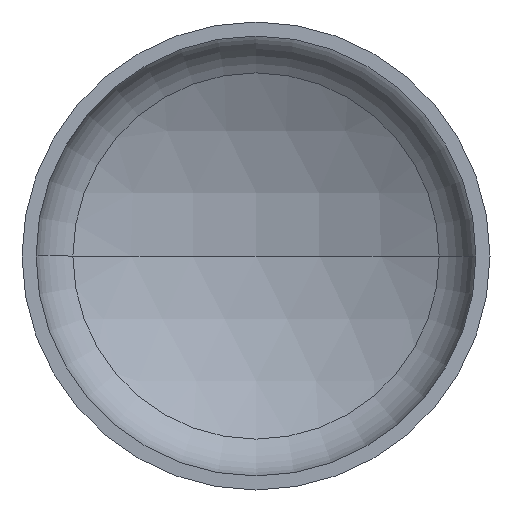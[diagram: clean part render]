
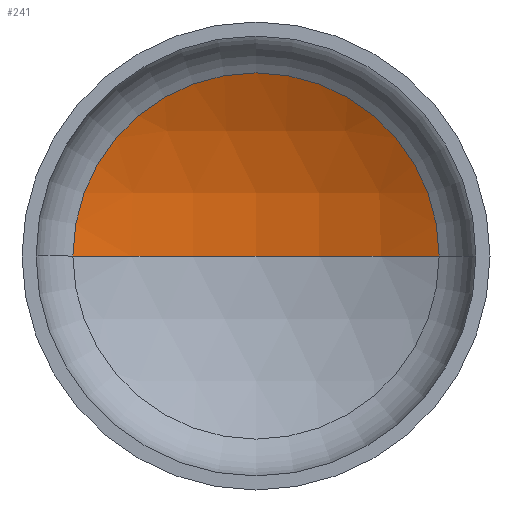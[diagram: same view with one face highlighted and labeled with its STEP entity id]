
A CAD part, front view. The second image highlights one B-rep face of the part: STEP entity #241.
In plain terms, the highlighted spherical face has radius 2880 mm.
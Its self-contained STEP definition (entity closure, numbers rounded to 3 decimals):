
#14 = DIRECTION ( 'NONE',  ( 0., 0., -1. ) ) ;
#40 = ORIENTED_EDGE ( 'NONE', *, *, #133, .T. ) ;
#45 = AXIS2_PLACEMENT_3D ( 'NONE', #312, #14, #375 ) ;
#55 = AXIS2_PLACEMENT_3D ( 'NONE', #257, #273, #269 ) ;
#59 = EDGE_LOOP ( 'NONE', ( #157, #89, #40 ) ) ;
#65 = AXIS2_PLACEMENT_3D ( 'NONE', #211, #214, #227 ) ;
#66 = AXIS2_PLACEMENT_3D ( 'NONE', #324, #384, #167 ) ;
#89 = ORIENTED_EDGE ( 'NONE', *, *, #141, .T. ) ;
#132 = VERTEX_POINT ( 'NONE', #290 ) ;
#133 = EDGE_CURVE ( 'NONE', #165, #132, #306, .T. ) ;
#141 = EDGE_CURVE ( 'NONE', #411, #165, #302, .T. ) ;
#150 = SPHERICAL_SURFACE ( 'NONE', #45, 2880. ) ;
#157 = ORIENTED_EDGE ( 'NONE', *, *, #169, .F. ) ;
#165 = VERTEX_POINT ( 'NONE', #297 ) ;
#167 = DIRECTION ( 'NONE',  ( 1., 0., 0. ) ) ;
#169 = EDGE_CURVE ( 'NONE', #411, #132, #171, .T. ) ;
#171 = CIRCLE ( 'NONE', #55, 2880. ) ;
#200 = CARTESIAN_POINT ( 'NONE',  ( 0., 926.982, 0. ) ) ;
#211 = CARTESIAN_POINT ( 'NONE',  ( 0., -1953.018, 0. ) ) ;
#214 = DIRECTION ( 'NONE',  ( 0., 0., -1. ) ) ;
#227 = DIRECTION ( 'NONE',  ( -1., 0., 0. ) ) ;
#231 = FACE_OUTER_BOUND ( 'NONE', #59, .T. ) ;
#241 = ADVANCED_FACE ( 'NONE', ( #231 ), #150, .F. ) ;
#257 = CARTESIAN_POINT ( 'NONE',  ( 0., -1953.018, 0. ) ) ;
#269 = DIRECTION ( 'NONE',  ( 1., 0., 0. ) ) ;
#273 = DIRECTION ( 'NONE',  ( 0., 0., 1. ) ) ;
#290 = CARTESIAN_POINT ( 'NONE',  ( -1408.413, 559.107, 0. ) ) ;
#297 = CARTESIAN_POINT ( 'NONE',  ( 1408.413, 559.107, 0. ) ) ;
#302 = CIRCLE ( 'NONE', #65, 2880. ) ;
#306 = CIRCLE ( 'NONE', #66, 1408.413 ) ;
#312 = CARTESIAN_POINT ( 'NONE',  ( 0., -1953.018, 0. ) ) ;
#324 = CARTESIAN_POINT ( 'NONE',  ( 0., 559.107, 0. ) ) ;
#375 = DIRECTION ( 'NONE',  ( -1., 0., 0. ) ) ;
#384 = DIRECTION ( 'NONE',  ( 0., -1., 0. ) ) ;
#411 = VERTEX_POINT ( 'NONE', #200 ) ;
